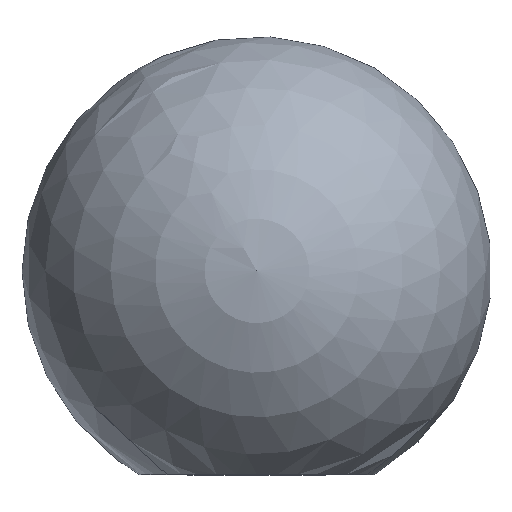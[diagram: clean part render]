
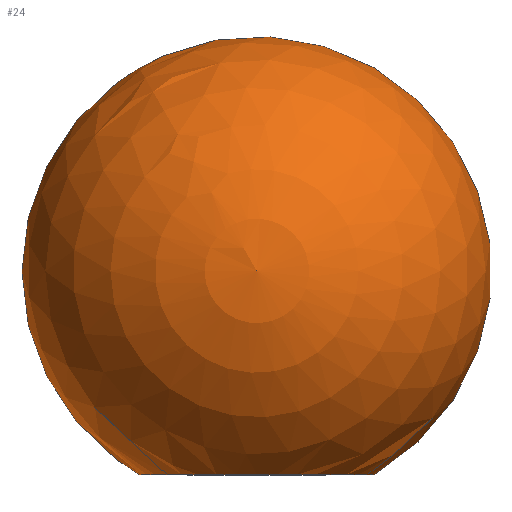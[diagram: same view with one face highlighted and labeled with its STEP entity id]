
A CAD part, top view. The second image highlights one B-rep face of the part: STEP entity #24.
In plain terms, the highlighted spherical face has radius 15 mm.
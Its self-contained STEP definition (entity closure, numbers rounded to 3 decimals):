
#4 = DIRECTION ( 'NONE',  ( 0., 0., -1. ) ) ;
#11 = CIRCLE ( 'NONE', #137, 7.483 ) ;
#24 = ADVANCED_FACE ( 'NONE', ( #154 ), #104, .T. ) ;
#26 = ORIENTED_EDGE ( 'NONE', *, *, #59, .F. ) ;
#51 = CARTESIAN_POINT ( 'NONE',  ( 0., 13., 0. ) ) ;
#56 = DIRECTION ( 'NONE',  ( 0., 0., 1. ) ) ;
#59 = EDGE_CURVE ( 'NONE', #87, #87, #11, .T. ) ;
#66 = CARTESIAN_POINT ( 'NONE',  ( 0., 0., 0. ) ) ;
#87 = VERTEX_POINT ( 'NONE', #141 ) ;
#104 = SPHERICAL_SURFACE ( 'NONE', #169, 15. ) ;
#107 = EDGE_LOOP ( 'NONE', ( #26 ) ) ;
#137 = AXIS2_PLACEMENT_3D ( 'NONE', #66, #175, #4 ) ;
#141 = CARTESIAN_POINT ( 'NONE',  ( 0., 0., -7.483 ) ) ;
#154 = FACE_OUTER_BOUND ( 'NONE', #107, .T. ) ;
#166 = DIRECTION ( 'NONE',  ( 1., 0., 0. ) ) ;
#169 = AXIS2_PLACEMENT_3D ( 'NONE', #51, #56, #166 ) ;
#175 = DIRECTION ( 'NONE',  ( 0., -1., 0. ) ) ;
